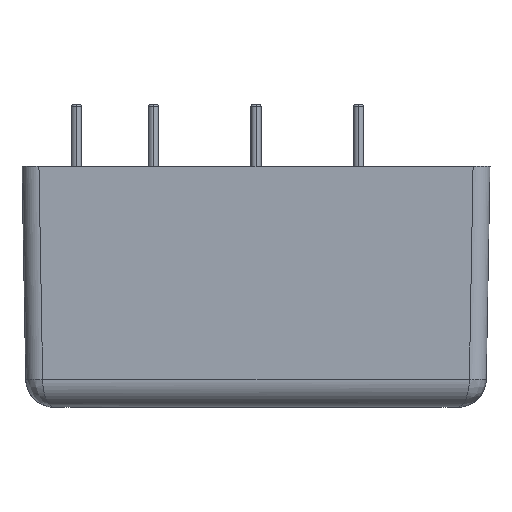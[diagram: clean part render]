
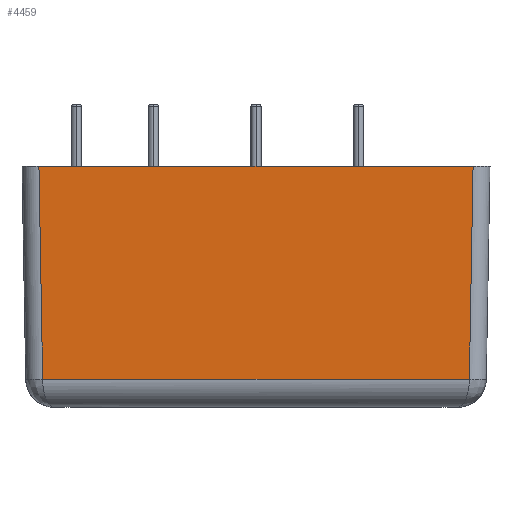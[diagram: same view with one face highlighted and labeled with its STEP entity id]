
A CAD part, left-side view. The second image highlights one B-rep face of the part: STEP entity #4459.
In plain terms, the highlighted planar face has unit normal (-1, 0, -0.018).
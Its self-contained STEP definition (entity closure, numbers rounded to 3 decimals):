
#12 = EDGE_LOOP ( 'NONE', ( #929, #3050, #4712, #1550 ) ) ;
#61 = AXIS2_PLACEMENT_3D ( 'NONE', #126, #559, #3246 ) ;
#126 = CARTESIAN_POINT ( 'NONE',  ( -37.858, 26.501, 11.941 ) ) ;
#559 = DIRECTION ( 'NONE',  ( -1., 0., -0.017 ) ) ;
#788 = CARTESIAN_POINT ( 'NONE',  ( -37.858, -17.449, 11.941 ) ) ;
#929 = ORIENTED_EDGE ( 'NONE', *, *, #3464, .F. ) ;
#1003 = CARTESIAN_POINT ( 'NONE',  ( -37.496, 26.501, -8.808 ) ) ;
#1146 = LINE ( 'NONE', #1230, #2077 ) ;
#1230 = CARTESIAN_POINT ( 'NONE',  ( -37.858, 24.851, 11.941 ) ) ;
#1271 = LINE ( 'NONE', #4217, #2189 ) ;
#1442 = VERTEX_POINT ( 'NONE', #1544 ) ;
#1544 = CARTESIAN_POINT ( 'NONE',  ( -37.496, -17.087, -8.808 ) ) ;
#1550 = ORIENTED_EDGE ( 'NONE', *, *, #2321, .F. ) ;
#1931 = VERTEX_POINT ( 'NONE', #4335 ) ;
#1956 = CARTESIAN_POINT ( 'NONE',  ( -37.851, -17.443, 11.572 ) ) ;
#2010 = DIRECTION ( 'NONE',  ( 0., -1., 0. ) ) ;
#2016 = VECTOR ( 'NONE', #4756, 1000. ) ;
#2077 = VECTOR ( 'NONE', #4618, 1000. ) ;
#2189 = VECTOR ( 'NONE', #2010, 1000. ) ;
#2321 = EDGE_CURVE ( 'NONE', #2351, #1442, #2433, .T. ) ;
#2351 = VERTEX_POINT ( 'NONE', #788 ) ;
#2433 = LINE ( 'NONE', #1956, #3288 ) ;
#2511 = PLANE ( 'NONE',  #61 ) ;
#2720 = EDGE_CURVE ( 'NONE', #3092, #1442, #3981, .T. ) ;
#3050 = ORIENTED_EDGE ( 'NONE', *, *, #3527, .T. ) ;
#3092 = VERTEX_POINT ( 'NONE', #3934 ) ;
#3246 = DIRECTION ( 'NONE',  ( -0.017, 0., 1. ) ) ;
#3288 = VECTOR ( 'NONE', #4905, 1000. ) ;
#3464 = EDGE_CURVE ( 'NONE', #1931, #2351, #1271, .T. ) ;
#3527 = EDGE_CURVE ( 'NONE', #1931, #3092, #1146, .T. ) ;
#3934 = CARTESIAN_POINT ( 'NONE',  ( -37.496, 24.489, -8.808 ) ) ;
#3981 = LINE ( 'NONE', #1003, #2016 ) ;
#4217 = CARTESIAN_POINT ( 'NONE',  ( -37.858, 3.701, 11.941 ) ) ;
#4335 = CARTESIAN_POINT ( 'NONE',  ( -37.858, 24.851, 11.941 ) ) ;
#4459 = ADVANCED_FACE ( 'NONE', ( #4483 ), #2511, .T. ) ;
#4483 = FACE_OUTER_BOUND ( 'NONE', #12, .T. ) ;
#4618 = DIRECTION ( 'NONE',  ( 0.017, -0.017, -1. ) ) ;
#4712 = ORIENTED_EDGE ( 'NONE', *, *, #2720, .T. ) ;
#4756 = DIRECTION ( 'NONE',  ( 0., -1., 0. ) ) ;
#4905 = DIRECTION ( 'NONE',  ( 0.017, 0.017, -1. ) ) ;
